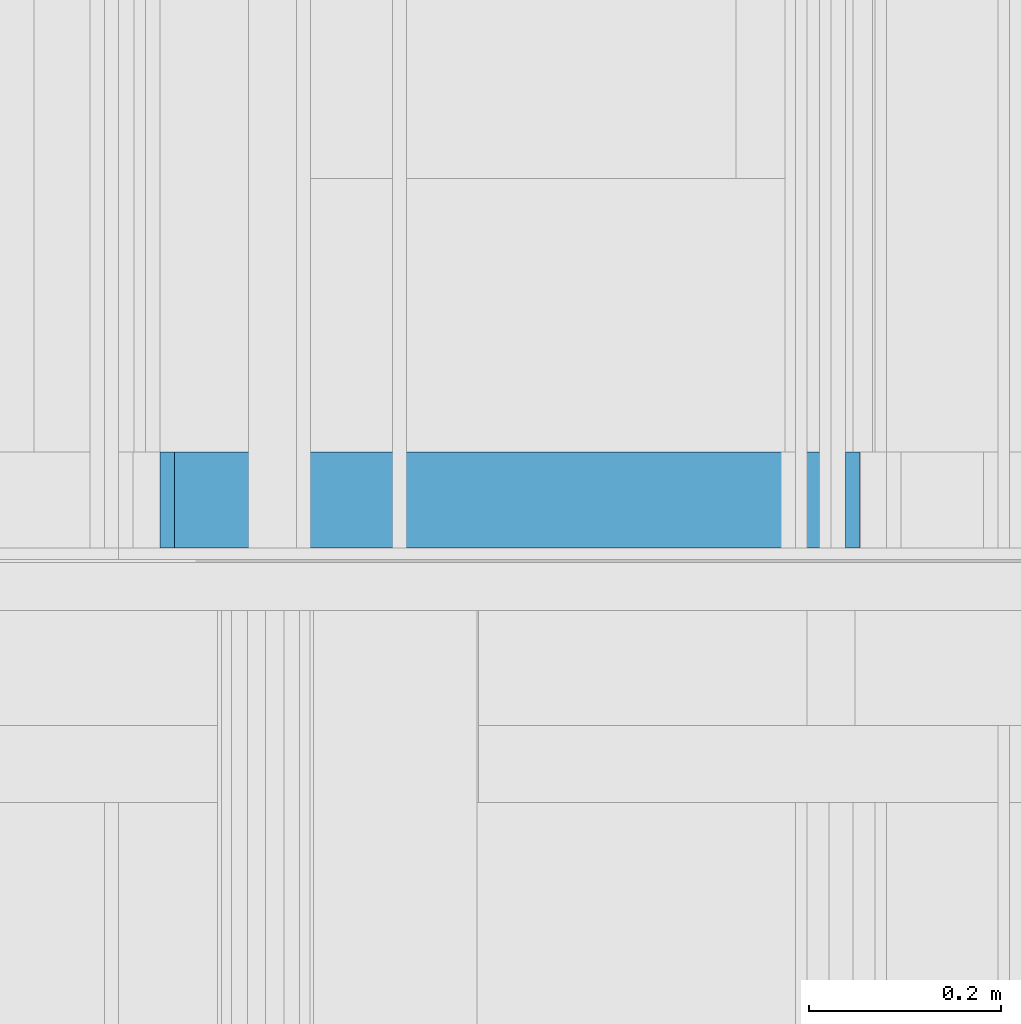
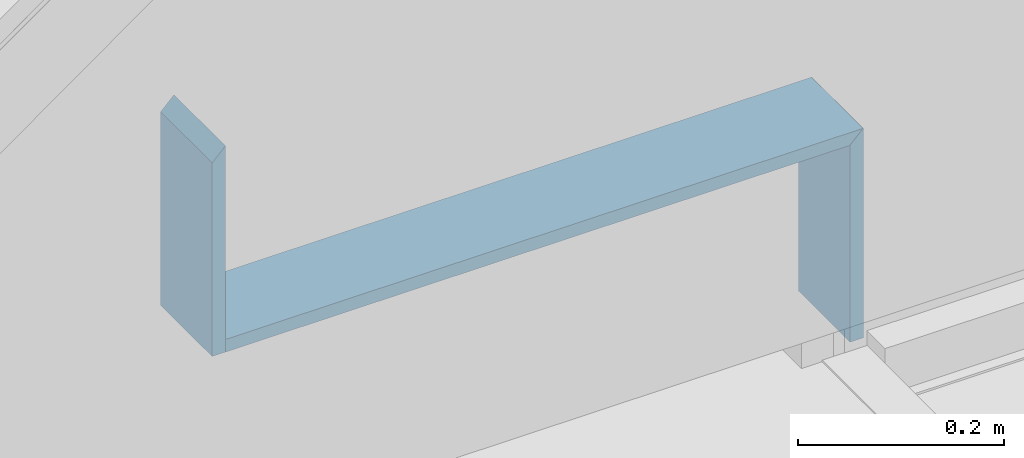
# One storey, part 230 of 583: 3 building element parts, 3 elements without a shape of their own.
"""IFC2X3 building model written with IfcOpenShell, lengths in metres."""

from ifc_helpers import new_model, entity, si_unit, converted_unit, derived_unit, money_unit, direction, frame, origin_with_axes, place, context, subcontext, project, spatial, polyline, outline, extrude, material, type_object, element, aggregate, save


model = new_model("IFC2X3")

# Units and contexts
model_context = context("Model", 3, precision=1e-05, world=origin_with_axes(), true_north=direction((0.0, 1.0)))
body_context = subcontext(model_context, "Body", "Model", "MODEL_VIEW", scale=1.0)
ifc_project = project(units=[si_unit("LENGTHUNIT", "METRE"), si_unit("AREAUNIT", "SQUARE_METRE"), si_unit("VOLUMEUNIT", "CUBIC_METRE"), si_unit("ABSORBEDDOSEUNIT", "GRAY"), si_unit("AMOUNTOFSUBSTANCEUNIT", "MOLE"), si_unit("DOSEEQUIVALENTUNIT", "SIEVERT"), si_unit("ELECTRICCAPACITANCEUNIT", "FARAD"), si_unit("ELECTRICCHARGEUNIT", "COULOMB"), si_unit("ELECTRICCONDUCTANCEUNIT", "SIEMENS"), si_unit("ELECTRICCURRENTUNIT", "AMPERE"), si_unit("ELECTRICRESISTANCEUNIT", "OHM"), si_unit("ELECTRICVOLTAGEUNIT", "VOLT"), si_unit("ENERGYUNIT", "JOULE"), si_unit("FORCEUNIT", "NEWTON"), si_unit("FREQUENCYUNIT", "HERTZ"), si_unit("ILLUMINANCEUNIT", "LUX"), si_unit("INDUCTANCEUNIT", "HENRY"), si_unit("LUMINOUSFLUXUNIT", "LUMEN"), si_unit("LUMINOUSINTENSITYUNIT", "CANDELA"), si_unit("MAGNETICFLUXDENSITYUNIT", "TESLA"), si_unit("MAGNETICFLUXUNIT", "WEBER"), si_unit("MASSUNIT", "GRAM"), converted_unit("PLANEANGLEUNIT", "degree", entity("IfcReal", 0.0174532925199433), si_unit("PLANEANGLEUNIT", "RADIAN"), dimensions=[0, 0, 0, 0, 0, 0, 0]), si_unit("POWERUNIT", "WATT"), si_unit("PRESSUREUNIT", "PASCAL"), si_unit("RADIOACTIVITYUNIT", "BECQUEREL"), si_unit("SOLIDANGLEUNIT", "STERADIAN"), si_unit("THERMODYNAMICTEMPERATUREUNIT", "KELVIN"), si_unit("TIMEUNIT", "SECOND"), derived_unit("ACCELERATIONUNIT", [(si_unit("LENGTHUNIT", "METRE"), 1), (si_unit("TIMEUNIT", "SECOND"), -2)]), derived_unit("ANGULARVELOCITYUNIT", [(converted_unit("PLANEANGLEUNIT", "degree", entity("IfcReal", 0.0174532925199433), si_unit("PLANEANGLEUNIT", "RADIAN"), dimensions=[0, 0, 0, 0, 0, 0, 0]), 1), (si_unit("TIMEUNIT", "SECOND"), -1)]), derived_unit("CURVATUREUNIT", [(converted_unit("PLANEANGLEUNIT", "degree", entity("IfcReal", 0.0174532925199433), si_unit("PLANEANGLEUNIT", "RADIAN"), dimensions=[0, 0, 0, 0, 0, 0, 0]), 1), (si_unit("LENGTHUNIT", "METRE"), -1)]), derived_unit("DYNAMICVISCOSITYUNIT", [(si_unit("PRESSUREUNIT", "PASCAL"), 1), (si_unit("TIMEUNIT", "SECOND"), 1)]), derived_unit("HEATFLUXDENSITYUNIT", [(si_unit("POWERUNIT", "WATT"), 1), (si_unit("LENGTHUNIT", "METRE"), -2)]), derived_unit("HEATINGVALUEUNIT", [(si_unit("ENERGYUNIT", "JOULE"), 1), (si_unit("MASSUNIT", "GRAM"), -1)]), derived_unit("INTEGERCOUNTRATEUNIT", [(si_unit("TIMEUNIT", "SECOND"), -1)]), derived_unit("IONCONCENTRATIONUNIT", [(si_unit("MASSUNIT", "GRAM"), 1), (si_unit("VOLUMEUNIT", "CUBIC_METRE"), -1)]), derived_unit("ISOTHERMALMOISTURECAPACITYUNIT", [(si_unit("VOLUMEUNIT", "CUBIC_METRE"), 1), (si_unit("MASSUNIT", "GRAM"), -1)]), derived_unit("KINEMATICVISCOSITYUNIT", [(si_unit("AREAUNIT", "SQUARE_METRE"), 1), (si_unit("TIMEUNIT", "SECOND"), -1)]), derived_unit("LINEARFORCEUNIT", [(si_unit("FORCEUNIT", "NEWTON"), 1), (si_unit("LENGTHUNIT", "METRE"), -1)]), derived_unit("LINEARMOMENTUNIT", [(si_unit("FORCEUNIT", "NEWTON"), 1), (si_unit("LENGTHUNIT", "METRE"), -1)]), derived_unit("LINEARSTIFFNESSUNIT", [(si_unit("FORCEUNIT", "NEWTON"), 1), (si_unit("LENGTHUNIT", "METRE"), -1)]), derived_unit("LINEARVELOCITYUNIT", [(si_unit("LENGTHUNIT", "METRE"), 1), (si_unit("TIMEUNIT", "SECOND"), -1)]), derived_unit("LUMINOUSINTENSITYDISTRIBUTIONUNIT", [(si_unit("LUMINOUSINTENSITYUNIT", "CANDELA"), 1), (si_unit("LUMINOUSFLUXUNIT", "LUMEN"), -1)]), derived_unit("MASSDENSITYUNIT", [(si_unit("MASSUNIT", "GRAM"), 1), (si_unit("VOLUMEUNIT", "CUBIC_METRE"), -1)]), derived_unit("MASSFLOWRATEUNIT", [(si_unit("MASSUNIT", "GRAM"), 1), (si_unit("TIMEUNIT", "SECOND"), -1)]), derived_unit("MASSPERLENGTHUNIT", [(si_unit("MASSUNIT", "GRAM"), 1), (si_unit("LENGTHUNIT", "METRE"), -1)]), derived_unit("MODULUSOFELASTICITYUNIT", [(si_unit("FORCEUNIT", "NEWTON"), 1), (si_unit("AREAUNIT", "SQUARE_METRE"), -1)]), derived_unit("MODULUSOFLINEARSUBGRADEREACTIONUNIT", [(si_unit("FORCEUNIT", "NEWTON"), 1), (si_unit("LENGTHUNIT", "METRE"), -2)]), derived_unit("MODULUSOFROTATIONALSUBGRADEREACTIONUNIT", [(si_unit("FORCEUNIT", "NEWTON"), 1), (si_unit("LENGTHUNIT", "METRE"), 1)]), derived_unit("MODULUSOFSUBGRADEREACTIONUNIT", [(si_unit("FORCEUNIT", "NEWTON"), 1), (si_unit("VOLUMEUNIT", "CUBIC_METRE"), -1)]), derived_unit("MOISTUREDIFFUSIVITYUNIT", [(si_unit("VOLUMEUNIT", "CUBIC_METRE"), 1), (si_unit("TIMEUNIT", "SECOND"), -1)]), derived_unit("MOLECULARWEIGHTUNIT", [(si_unit("MASSUNIT", "GRAM"), 1), (si_unit("AMOUNTOFSUBSTANCEUNIT", "MOLE"), -1)]), derived_unit("PLANARFORCEUNIT", [(si_unit("FORCEUNIT", "NEWTON"), 1), (si_unit("LENGTHUNIT", "METRE"), -2)]), derived_unit("ROTATIONALFREQUENCYUNIT", [(si_unit("TIMEUNIT", "SECOND"), -1)]), derived_unit("ROTATIONALMASSUNIT", [(si_unit("MASSUNIT", "GRAM"), 1), (si_unit("LENGTHUNIT", "METRE"), 2)]), derived_unit("ROTATIONALSTIFFNESSUNIT", [(si_unit("FORCEUNIT", "NEWTON"), 1), (si_unit("LENGTHUNIT", "METRE"), 1), (converted_unit("PLANEANGLEUNIT", "degree", entity("IfcReal", 0.0174532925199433), si_unit("PLANEANGLEUNIT", "RADIAN"), dimensions=[0, 0, 0, 0, 0, 0, 0]), -1)]), derived_unit("SECTIONAREAINTEGRALUNIT", [(si_unit("LENGTHUNIT", "METRE"), 5)]), derived_unit("SECTIONMODULUSUNIT", [(si_unit("LENGTHUNIT", "METRE"), 3)]), derived_unit("SHEARMODULUSUNIT", [(si_unit("FORCEUNIT", "NEWTON"), 1), (si_unit("AREAUNIT", "SQUARE_METRE"), -1)]), derived_unit("SOUNDPOWERUNIT", [(si_unit("ENERGYUNIT", "JOULE"), 1), (si_unit("TIMEUNIT", "SECOND"), -1)]), derived_unit("SPECIFICHEATCAPACITYUNIT", [(si_unit("FORCEUNIT", "NEWTON"), 1), (si_unit("MASSUNIT", "GRAM"), -1), (si_unit("THERMODYNAMICTEMPERATUREUNIT", "KELVIN"), -1)]), derived_unit("TEMPERATUREGRADIENTUNIT", [(si_unit("THERMODYNAMICTEMPERATUREUNIT", "KELVIN"), 1), (si_unit("LENGTHUNIT", "METRE"), -1)]), derived_unit("THERMALADMITTANCEUNIT", [(si_unit("POWERUNIT", "WATT"), 1), (si_unit("AREAUNIT", "SQUARE_METRE"), -1), (si_unit("THERMODYNAMICTEMPERATUREUNIT", "KELVIN"), -1)]), derived_unit("THERMALCONDUCTANCEUNIT", [(si_unit("POWERUNIT", "WATT"), 1), (si_unit("LENGTHUNIT", "METRE"), -1), (si_unit("THERMODYNAMICTEMPERATUREUNIT", "KELVIN"), -1)]), derived_unit("THERMALEXPANSIONCOEFFICIENTUNIT", [(si_unit("THERMODYNAMICTEMPERATUREUNIT", "KELVIN"), -1)]), derived_unit("THERMALRESISTANCEUNIT", [(si_unit("AREAUNIT", "SQUARE_METRE"), 1), (si_unit("POWERUNIT", "WATT"), -1)]), derived_unit("THERMALTRANSMITTANCEUNIT", [(si_unit("POWERUNIT", "WATT"), 1), (si_unit("AREAUNIT", "SQUARE_METRE"), -1), (si_unit("THERMODYNAMICTEMPERATUREUNIT", "KELVIN"), -1)]), derived_unit("TORQUEUNIT", [(si_unit("FORCEUNIT", "NEWTON"), 1), (si_unit("LENGTHUNIT", "METRE"), 1)]), derived_unit("VAPORPERMEABILITYUNIT", [(si_unit("MASSUNIT", "GRAM"), 1), (si_unit("TIMEUNIT", "SECOND"), -1)]), derived_unit("VOLUMETRICFLOWRATEUNIT", [(si_unit("VOLUMEUNIT", "CUBIC_METRE"), 1), (si_unit("TIMEUNIT", "SECOND"), -1)]), derived_unit("WARPINGCONSTANTUNIT", [(si_unit("LENGTHUNIT", "METRE"), 6)]), derived_unit("WARPINGMOMENTUNIT", [(si_unit("FORCEUNIT", "NEWTON"), 1), (si_unit("LENGTHUNIT", "METRE"), 2)]), money_unit("GBP")], contexts=[model_context])

# Site, building, storey
site_placement = place(None, origin_with_axes())
site = spatial("IfcSite", under=ifc_project, at=site_placement, Name="Site", CompositionType="ELEMENT")
building_placement = place(site_placement, origin_with_axes())
building = spatial("IfcBuilding", under=site, at=building_placement, Name="Building01", CompositionType="ELEMENT")
storey_placement = place(building_placement, frame((0.0, 0.0, 20.78), z_axis=(0.0, 0.0, 1.0), x_axis=(1.0, 0.0, 0.0)))
storey = spatial("IfcBuildingStorey", under=building, at=storey_placement, Name="RL", CompositionType="ELEMENT", Elevation=20.78)

# Wall, building element part
wall_type = type_object("IfcWallType", Name="SHE_A-Walls_Type06f_ExternalWallInsulation_48+15mm", PredefinedType="NOTDEFINED")
wall_1_placement = place(storey_placement, frame((8.8, 12.13, -20.51), z_axis=(0.0, 1.0, 0.0), x_axis=(0.0, 0.0, 1.0)))
wall_1 = element("IfcWall", 1, at=wall_1_placement, inside=storey, type_object=wall_type, Name="6F", ObjectType="SHE_A-Walls_Type06f_ExternalWallInsulation_48+15mm")
ifc_material = material(Name="A_BSUK_Walls_Timber")
building_element_part_1_placement = place(wall_1_placement, origin_with_axes())
building_element_part_1 = element("IfcBuildingElementPart", 2, at=building_element_part_1_placement, material=ifc_material, Name="2", context=body_context, shape_type="SweptSolid", body=[
    extrude(outline(polyline([(0.307178, 0.078), (0.063, 0.078), (0.063, 0.063), (0.292178, 0.063), (0.307178, 0.078)])), frame((0.0, 0.0, 0.015), z_axis=(0.0, 0.0, 1.0), x_axis=(1.0, 0.0, 0.0)), (0.0, 0.0, 1.0), 0.1),
])
aggregate(wall_1, [building_element_part_1])

wall_2_placement = place(storey_placement, frame((9.51418, 12.13, -20.68), z_axis=(0.0, 1.0, 0.0), x_axis=(0.0, 0.0, 1.0)))
wall_2 = element("IfcWall", 3, at=wall_2_placement, inside=storey, type_object=wall_type, Name="6F", ObjectType="SHE_A-Walls_Type06f_ExternalWallInsulation_48+15mm")
building_element_part_2_placement = place(wall_2_placement, origin_with_axes())
building_element_part_2 = element("IfcBuildingElementPart", 4, at=building_element_part_2_placement, material=ifc_material, Name="2", context=body_context, shape_type="SweptSolid", body=[
    extrude(outline(polyline([(0.248, 0.078), (0.0, 0.078), (0.0, 0.063), (0.233, 0.063), (0.248, 0.078)])), frame((0.0, 0.0, 0.015), z_axis=(0.0, 0.0, 1.0), x_axis=(1.0, 0.0, 0.0)), (0.0, 0.0, 1.0), 0.1),
])
aggregate(wall_2, [building_element_part_2])

wall_3_placement = place(storey_placement, frame((8.836, 12.13, -20.51), z_axis=(0.0, 1.0, 0.0), x_axis=(1.0, 0.0, 0.0)))
wall_3 = element("IfcWall", 5, at=wall_3_placement, inside=storey, type_object=wall_type, Name="6F", ObjectType="SHE_A-Walls_Type06f_ExternalWallInsulation_48+15mm")
building_element_part_3_placement = place(wall_3_placement, origin_with_axes())
building_element_part_3 = element("IfcBuildingElementPart", 6, at=building_element_part_3_placement, material=ifc_material, Name="2", context=body_context, shape_type="SweptSolid", body=[
    extrude(outline(polyline([(0.74118, -0.063), (0.042, -0.063), (0.042, -0.078), (0.75618, -0.078), (0.74118, -0.063)])), frame((0.0, 0.0, 0.015), z_axis=(0.0, 0.0, 1.0), x_axis=(1.0, 0.0, 0.0)), (0.0, 0.0, 1.0), 0.1),
])
aggregate(wall_3, [building_element_part_3])

save(model, "model.ifc")
